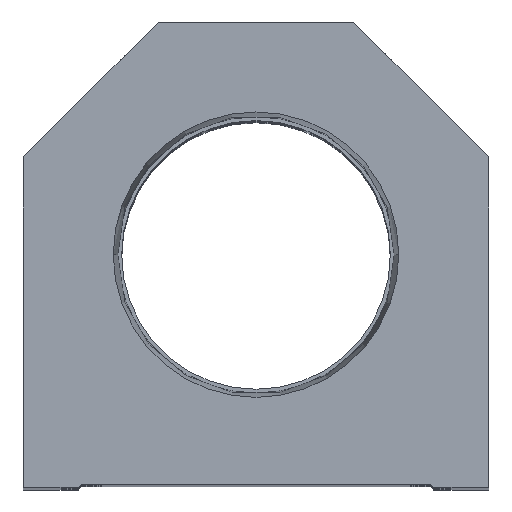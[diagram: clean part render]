
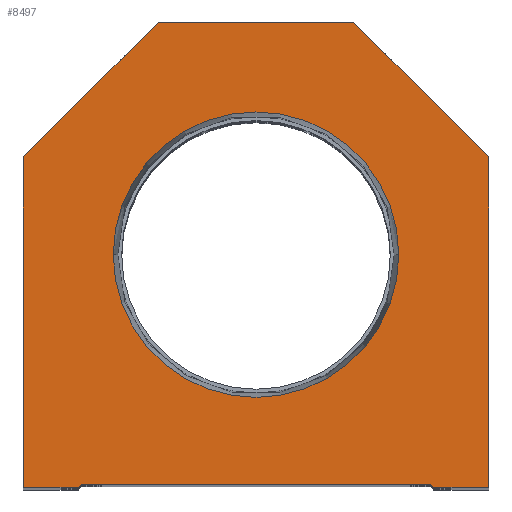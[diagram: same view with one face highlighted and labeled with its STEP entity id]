
A CAD part, top view. The second image highlights one B-rep face of the part: STEP entity #8497.
In plain terms, the highlighted planar face has unit normal (0, 0, 1).
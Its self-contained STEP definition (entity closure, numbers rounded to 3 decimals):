
#80 = AXIS2_PLACEMENT_3D ( 'NONE', #4114, #2621, #19961 ) ;
#117 = EDGE_CURVE ( 'NONE', #3565, #1438, #13064, .T. ) ;
#148 = LINE ( 'NONE', #12192, #982 ) ;
#242 = DIRECTION ( 'NONE',  ( 1., 0., 0. ) ) ;
#252 = AXIS2_PLACEMENT_3D ( 'NONE', #3815, #19309, #2106 ) ;
#253 = CARTESIAN_POINT ( 'NONE',  ( -28.6, 0.5, 0. ) ) ;
#283 = LINE ( 'NONE', #5779, #18157 ) ;
#461 = CIRCLE ( 'NONE', #80, 23.374 ) ;
#536 = CARTESIAN_POINT ( 'NONE',  ( 29.1, 0., 0. ) ) ;
#618 = ORIENTED_EDGE ( 'NONE', *, *, #8895, .T. ) ;
#678 = CARTESIAN_POINT ( 'NONE',  ( 38.1, 0., 0. ) ) ;
#982 = VECTOR ( 'NONE', #12531, 1000. ) ;
#1370 = VECTOR ( 'NONE', #22131, 1000. ) ;
#1438 = VERTEX_POINT ( 'NONE', #14448 ) ;
#1683 = EDGE_CURVE ( 'NONE', #16277, #20946, #15018, .T. ) ;
#1747 = CARTESIAN_POINT ( 'NONE',  ( -38.1, 54.1, 0. ) ) ;
#1961 = VECTOR ( 'NONE', #2522, 1000. ) ;
#2004 = VERTEX_POINT ( 'NONE', #16768 ) ;
#2106 = DIRECTION ( 'NONE',  ( 1., 0., 0. ) ) ;
#2299 = LINE ( 'NONE', #9424, #13770 ) ;
#2352 = ORIENTED_EDGE ( 'NONE', *, *, #14235, .T. ) ;
#2426 = DIRECTION ( 'NONE',  ( 1., 0., 0. ) ) ;
#2502 = EDGE_LOOP ( 'NONE', ( #6591, #20823 ) ) ;
#2522 = DIRECTION ( 'NONE',  ( 1., 0., 0. ) ) ;
#2621 = DIRECTION ( 'NONE',  ( 0., 0., 1. ) ) ;
#2840 = PLANE ( 'NONE',  #5700 ) ;
#3135 = EDGE_CURVE ( 'NONE', #2004, #4899, #18361, .T. ) ;
#3493 = VECTOR ( 'NONE', #242, 1000. ) ;
#3519 = VERTEX_POINT ( 'NONE', #536 ) ;
#3565 = VERTEX_POINT ( 'NONE', #14652 ) ;
#3815 = CARTESIAN_POINT ( 'NONE',  ( 0., 38.1, 0. ) ) ;
#4114 = CARTESIAN_POINT ( 'NONE',  ( 0., 38.1, 0. ) ) ;
#4448 = ORIENTED_EDGE ( 'NONE', *, *, #1683, .T. ) ;
#4863 = CARTESIAN_POINT ( 'NONE',  ( -23.374, 38.1, 0. ) ) ;
#4899 = VERTEX_POINT ( 'NONE', #5855 ) ;
#4919 = CARTESIAN_POINT ( 'NONE',  ( -28.6, 0.5, 0. ) ) ;
#4958 = CARTESIAN_POINT ( 'NONE',  ( 38.1, 54.1, 0. ) ) ;
#5700 = AXIS2_PLACEMENT_3D ( 'NONE', #16704, #22013, #6279 ) ;
#5753 = LINE ( 'NONE', #253, #11568 ) ;
#5779 = CARTESIAN_POINT ( 'NONE',  ( -14.55, 14.55, 0. ) ) ;
#5855 = CARTESIAN_POINT ( 'NONE',  ( -16., 76.2, 0. ) ) ;
#5904 = ORIENTED_EDGE ( 'NONE', *, *, #21072, .T. ) ;
#6279 = DIRECTION ( 'NONE',  ( 1., 0., 0. ) ) ;
#6591 = ORIENTED_EDGE ( 'NONE', *, *, #17951, .F. ) ;
#7581 = CARTESIAN_POINT ( 'NONE',  ( 38.1, 0., 0. ) ) ;
#7937 = CARTESIAN_POINT ( 'NONE',  ( 16., 76.2, 0. ) ) ;
#8065 = ORIENTED_EDGE ( 'NONE', *, *, #14018, .T. ) ;
#8497 = ADVANCED_FACE ( 'NONE', ( #10180, #15016 ), #2840, .T. ) ;
#8713 = CARTESIAN_POINT ( 'NONE',  ( -38.1, 54.1, 0. ) ) ;
#8895 = EDGE_CURVE ( 'NONE', #9956, #3565, #21276, .T. ) ;
#9424 = CARTESIAN_POINT ( 'NONE',  ( 38.1, 54.1, 0. ) ) ;
#9956 = VERTEX_POINT ( 'NONE', #8713 ) ;
#10180 = FACE_BOUND ( 'NONE', #2502, .T. ) ;
#10455 = EDGE_LOOP ( 'NONE', ( #20390, #21228, #14118, #10602, #5904, #4448, #2352, #22352, #8065, #618 ) ) ;
#10602 = ORIENTED_EDGE ( 'NONE', *, *, #15960, .T. ) ;
#11568 = VECTOR ( 'NONE', #2426, 1000. ) ;
#11857 = VERTEX_POINT ( 'NONE', #16554 ) ;
#12192 = CARTESIAN_POINT ( 'NONE',  ( 14.55, 14.55, 0. ) ) ;
#12504 = CARTESIAN_POINT ( 'NONE',  ( 28.6, 0., 0. ) ) ;
#12531 = DIRECTION ( 'NONE',  ( 0.707, -0.707, 0. ) ) ;
#13064 = LINE ( 'NONE', #16279, #1961 ) ;
#13668 = LINE ( 'NONE', #1747, #18172 ) ;
#13770 = VECTOR ( 'NONE', #17778, 1000. ) ;
#13798 = EDGE_CURVE ( 'NONE', #1438, #22303, #283, .T. ) ;
#14018 = EDGE_CURVE ( 'NONE', #4899, #9956, #13668, .T. ) ;
#14118 = ORIENTED_EDGE ( 'NONE', *, *, #14251, .T. ) ;
#14235 = EDGE_CURVE ( 'NONE', #20946, #2004, #2299, .T. ) ;
#14251 = EDGE_CURVE ( 'NONE', #22303, #11857, #5753, .T. ) ;
#14384 = CARTESIAN_POINT ( 'NONE',  ( -38.1, 0., 0. ) ) ;
#14448 = CARTESIAN_POINT ( 'NONE',  ( -29.1, 0., 0. ) ) ;
#14652 = CARTESIAN_POINT ( 'NONE',  ( -38.1, 0., 0. ) ) ;
#14694 = VECTOR ( 'NONE', #14948, 1000. ) ;
#14948 = DIRECTION ( 'NONE',  ( -1., 0., 0. ) ) ;
#15016 = FACE_OUTER_BOUND ( 'NONE', #10455, .T. ) ;
#15018 = LINE ( 'NONE', #678, #1370 ) ;
#15404 = DIRECTION ( 'NONE',  ( -0.707, -0.707, 0. ) ) ;
#15960 = EDGE_CURVE ( 'NONE', #11857, #3519, #148, .T. ) ;
#15972 = EDGE_CURVE ( 'NONE', #22419, #19858, #17815, .T. ) ;
#15981 = DIRECTION ( 'NONE',  ( 0.707, 0.707, 0. ) ) ;
#16211 = CARTESIAN_POINT ( 'NONE',  ( 23.374, 38.1, 0. ) ) ;
#16277 = VERTEX_POINT ( 'NONE', #7581 ) ;
#16279 = CARTESIAN_POINT ( 'NONE',  ( -28.6, 0., 0. ) ) ;
#16554 = CARTESIAN_POINT ( 'NONE',  ( 28.6, 0.5, 0. ) ) ;
#16704 = CARTESIAN_POINT ( 'NONE',  ( 0., 0., 0. ) ) ;
#16768 = CARTESIAN_POINT ( 'NONE',  ( 16., 76.2, 0. ) ) ;
#17778 = DIRECTION ( 'NONE',  ( -0.707, 0.707, 0. ) ) ;
#17813 = DIRECTION ( 'NONE',  ( 0., -1., 0. ) ) ;
#17815 = CIRCLE ( 'NONE', #252, 23.374 ) ;
#17951 = EDGE_CURVE ( 'NONE', #19858, #22419, #461, .T. ) ;
#18157 = VECTOR ( 'NONE', #15981, 1000. ) ;
#18172 = VECTOR ( 'NONE', #15404, 1000. ) ;
#18361 = LINE ( 'NONE', #7937, #14694 ) ;
#19282 = LINE ( 'NONE', #12504, #3493 ) ;
#19309 = DIRECTION ( 'NONE',  ( 0., 0., 1. ) ) ;
#19858 = VERTEX_POINT ( 'NONE', #16211 ) ;
#19961 = DIRECTION ( 'NONE',  ( 1., 0., 0. ) ) ;
#20390 = ORIENTED_EDGE ( 'NONE', *, *, #117, .T. ) ;
#20823 = ORIENTED_EDGE ( 'NONE', *, *, #15972, .F. ) ;
#20946 = VERTEX_POINT ( 'NONE', #4958 ) ;
#21072 = EDGE_CURVE ( 'NONE', #3519, #16277, #19282, .T. ) ;
#21228 = ORIENTED_EDGE ( 'NONE', *, *, #13798, .T. ) ;
#21276 = LINE ( 'NONE', #14384, #21848 ) ;
#21848 = VECTOR ( 'NONE', #17813, 1000. ) ;
#22013 = DIRECTION ( 'NONE',  ( 0., 0., 1. ) ) ;
#22131 = DIRECTION ( 'NONE',  ( 0., 1., 0. ) ) ;
#22303 = VERTEX_POINT ( 'NONE', #4919 ) ;
#22352 = ORIENTED_EDGE ( 'NONE', *, *, #3135, .T. ) ;
#22419 = VERTEX_POINT ( 'NONE', #4863 ) ;
